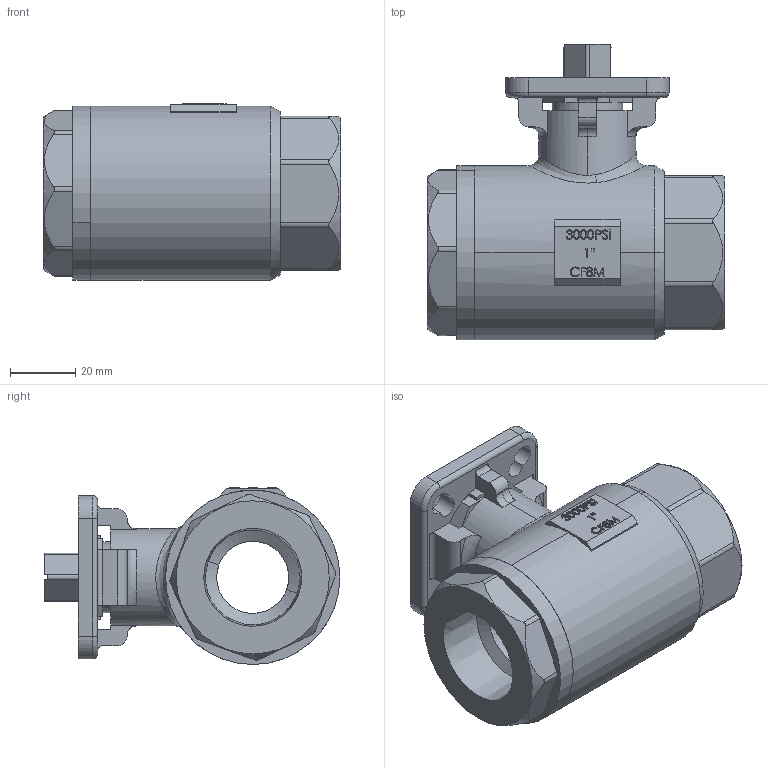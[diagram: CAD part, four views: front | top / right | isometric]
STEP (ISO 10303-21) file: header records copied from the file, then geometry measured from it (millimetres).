
FILE_DESCRIPTION (( 'STEP AP203' ), '1' );
FILE_NAME ('21DN25無把手.STEP', '2019-09-24T08:52:11', ( 'bx' ), ( '' ), 'SwSTEP 2.0', 'SolidWorks 2014', '' );
FILE_SCHEMA (( 'CONFIG_CONTROL_DESIGN' ));
Length unit declared in the file: millimetre
Products named in the file (1): 21DN25無把手
Bounding box: 91 x 90.6 x 54.2 mm (x, y, z)
Volume: 170281 mm3; surface area: 66661.8 mm2
Topology: 16 solids, 16 shells, 549 faces, 1375 edges, 886 vertices
Faces by surface type: plane 225, cylinder 149, bspline 90, cone 58, torus 21, sphere 6
Entity records: 23047 total; most frequent: CARTESIAN_POINT 10190, ORIENTED_EDGE 2734, DIRECTION 2459, EDGE_CURVE 1367, VERTEX_POINT 882, AXIS2_PLACEMENT_3D 880, VECTOR 699, LINE 699
